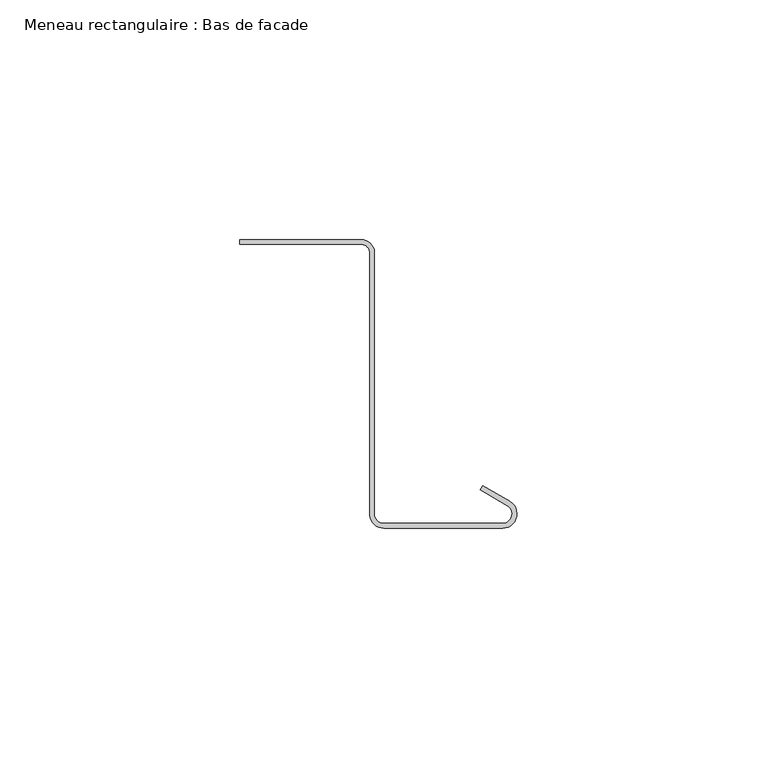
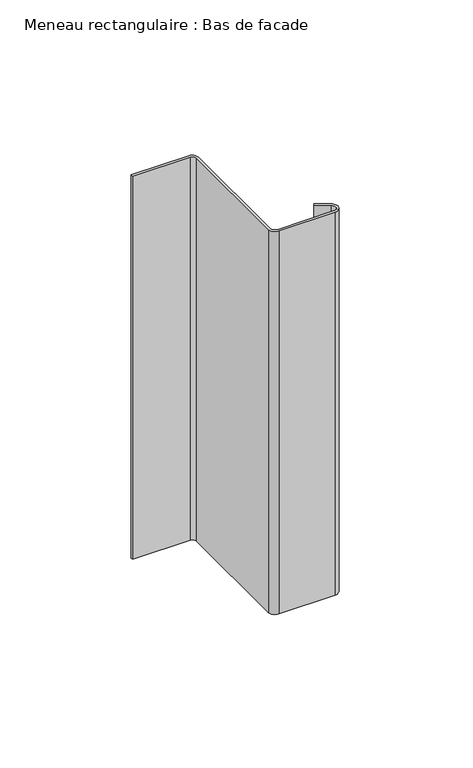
"""IFC4 building model written with IfcOpenShell, lengths in millimetres: member geometry, Meneau rectangulaire : Bas de facade."""

from ifc_helpers import new_model, si_unit, point, frame, frame_2d, origin, place, context, project, spatial, polyline, circle_curve, trimmed, segment, composite_curve, outline, extrude, source, transform, mapped, element, save


def meneau_rectangulaire_bas_de_facade_734854f8(model_context):
    return source(origin(), model_context, "Body", "SweptSolid", [
        extrude(outline(composite_curve([segment(trimmed(circle_curve(frame_2d((-32.4584179, 0.2088923)), 2.75), [point((-32.4584179, 2.9588923))], [point((-29.7143802, 0.3898824))], False, "CARTESIAN"), True, "CONTINUOUS"), segment(polyline([(-29.7143802, 0.3898824), (-29.7143802, -54.5495817)]), True, "CONTINUOUS"), segment(trimmed(circle_curve(frame_2d((-27.735368, -54.2605998)), 2.0), [point((-29.7143802, -54.5495817))], [point((-27.735368, -56.2605998))], True, "CARTESIAN"), True, "CONTINUOUS"), segment(polyline([(-27.735368, -56.2605998), (-3.0, -56.2605998)]), True, "CONTINUOUS"), segment(trimmed(circle_curve(frame_2d((-3.0, -54.2605998)), 2.0), [point((-3.0, -56.2605998))], [point((-2.0, -52.528549))], True, "CARTESIAN"), True, "CONTINUOUS"), segment(polyline([(-2.0, -52.528549), (-7.6638061, -49.258549), (-7.1638061, -48.3925235), (-1.5, -51.6625235)]), True, "CONTINUOUS"), segment(trimmed(circle_curve(frame_2d((-3.0, -54.2605998)), 3.0), [point((-1.5, -51.6625235))], [point((-3.0, -57.2605998))], False, "CARTESIAN"), True, "CONTINUOUS"), segment(polyline([(-3.0, -57.2605998), (-27.735368, -57.2605998)]), True, "CONTINUOUS"), segment(trimmed(circle_curve(frame_2d((-27.735368, -54.2605998)), 3.0), [point((-27.735368, -57.2605998))], [point((-30.7239521, -54.522067))], False, "CARTESIAN"), True, "CONTINUOUS"), segment(polyline([(-30.7239521, -54.522067), (-30.7239521, 0.4415475)]), True, "CONTINUOUS"), segment(trimmed(circle_curve(frame_2d((-32.4584179, 0.2088923)), 1.75), [point((-30.7239521, 0.4415475))], [point((-32.4584179, 1.9588923))], True, "CARTESIAN"), True, "CONTINUOUS"), segment(polyline([(-32.4584179, 1.9588923), (-57.8548383, 1.9588923), (-57.8548383, 2.9588923), (-32.4584179, 2.9588923)]), True, "CONTINUOUS")], self_intersect=False)), frame((0.0, 0.0, -178.0), z_axis=(0.0, 0.0, 1.0), x_axis=(1.0, 0.0, 0.0)), (0.0, 0.0, 1.0), 178.0),
    ])


if __name__ == "__main__":
    model = new_model("IFC4")
    model_context = context("Model", 3, world=origin())
    ifc_project = project(units=[si_unit("LENGTHUNIT", "METRE", prefix="MILLI")], contexts=[model_context])
    site = spatial("IfcSite", under=ifc_project)
    building = spatial("IfcBuilding", under=site)
    placement = place(None, origin())
    meneau_rectangulaire_bas_de_facade_shape = meneau_rectangulaire_bas_de_facade_734854f8(model_context)
    element("IfcMember", 1, ObjectType="Meneau rectangulaire : Bas de facade", at=placement, inside=building, context=model_context, shape_type="MappedRepresentation", body=[
        mapped(meneau_rectangulaire_bas_de_facade_shape, transform((0.0, 0.0, 0.0), x_axis=(1.0, 0.0, 0.0), y_axis=(0.0, 1.0, 0.0), z_axis=(0.0, 0.0, 1.0))),
    ])
    save(model, "model.ifc")
